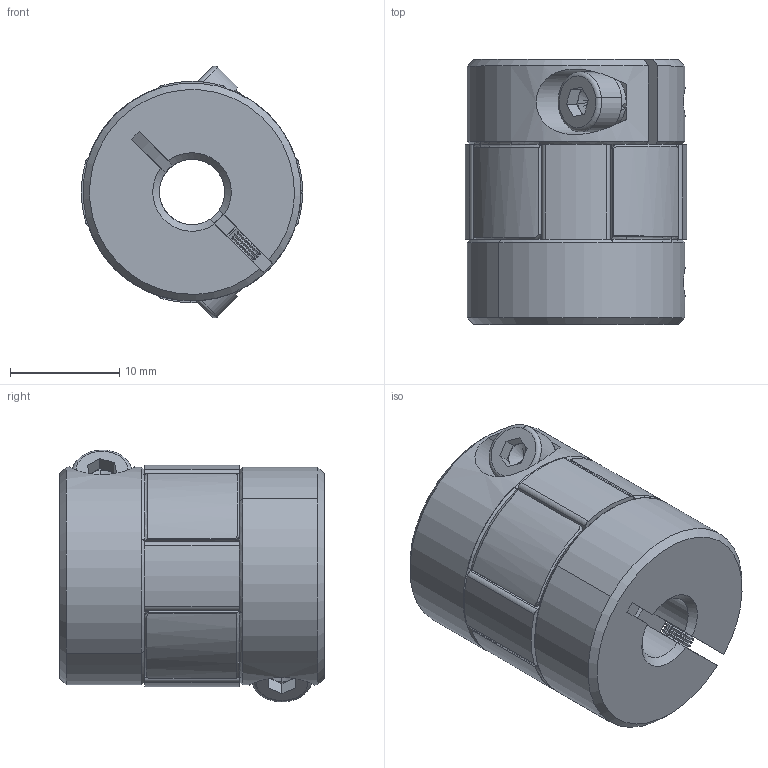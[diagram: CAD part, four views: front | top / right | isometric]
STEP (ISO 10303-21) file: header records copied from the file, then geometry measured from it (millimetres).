
FILE_DESCRIPTION (( 'STEP AP203' ), '1' );
FILE_NAME ('LF-B-D20L25-6-6.STEP', '2021-10-20T01:26:46', ( '' ), ( '' ), 'SwSTEP 2.0', 'SolidWorks 2018', '' );
FILE_SCHEMA (( 'CONFIG_CONTROL_DESIGN' ));
Length unit declared in the file: millimetre
Products named in the file (1): LF-B-D20L25-6-6
Bounding box: 20.31 x 24.3 x 23.09 mm (x, y, z)
Volume: 6594.8 mm3; surface area: 3573.6 mm2
Topology: 1 solids, 1 shells, 431 faces, 1076 edges, 637 vertices
Faces by surface type: cylinder 167, cone 158, plane 94, torus 12
Entity records: 13178 total; most frequent: CARTESIAN_POINT 2731, DIRECTION 2331, ORIENTED_EDGE 2144, EDGE_CURVE 1072, AXIS2_PLACEMENT_3D 959, VERTEX_POINT 637, CIRCLE 527, EDGE_LOOP 447
